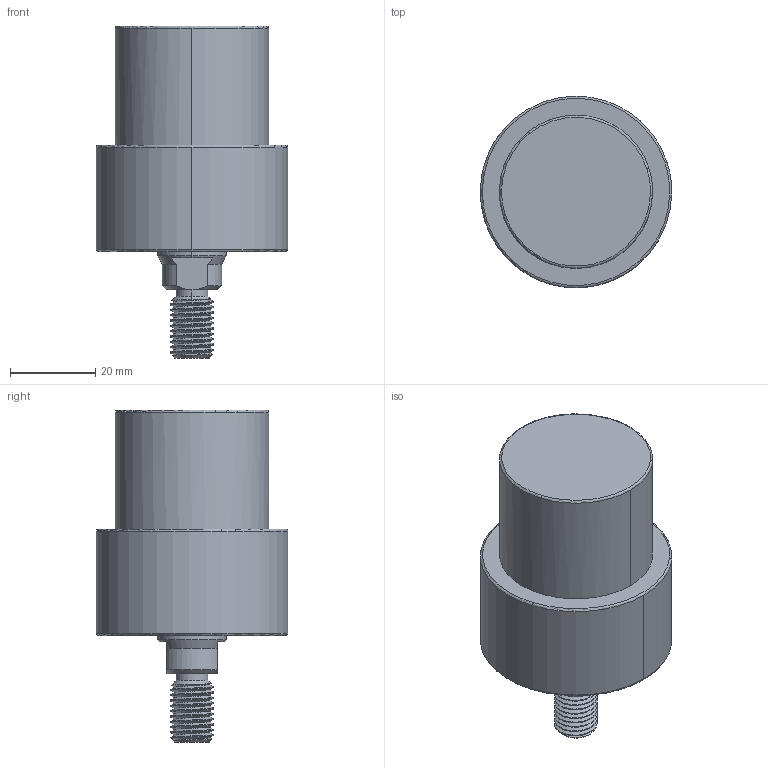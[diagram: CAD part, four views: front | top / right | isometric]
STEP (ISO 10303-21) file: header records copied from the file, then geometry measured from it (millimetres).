
FILE_DESCRIPTION((' '),'2;1');
FILE_NAME( 'TLLU-036GT-020.STEP.stp', '2025-10-24T16:37:06', (' '), ('--- Datakit www.datakit.com---'), ' Datakit CrossCadWare V2024.1 Dec 21 2023', 'Mastercam 2025', ' ');
FILE_SCHEMA(('AUTOMOTIVE_DESIGN { 1 0 10303 214 1 1 1 1 }'));
Length unit declared in the file: millimetre
Products named in the file (1): TLLU-036GT-020
Bounding box: 44.99 x 45 x 78 mm (x, y, z)
Volume: 70043.6 mm3; surface area: 11516.7 mm2
Topology: 1 solids, 1 shells, 88 faces, 293 edges, 208 vertices
Faces by surface type: cylinder 43, cone 26, plane 11, torus 6, bspline 2
Entity records: 8048 total; most frequent: CARTESIAN_POINT 5575, ORIENTED_EDGE 570, DIRECTION 464, EDGE_CURVE 285, VERTEX_POINT 208, AXIS2_PLACEMENT_3D 197, CIRCLE 110, B_SPLINE_CURVE_WITH_KNOTS 105
